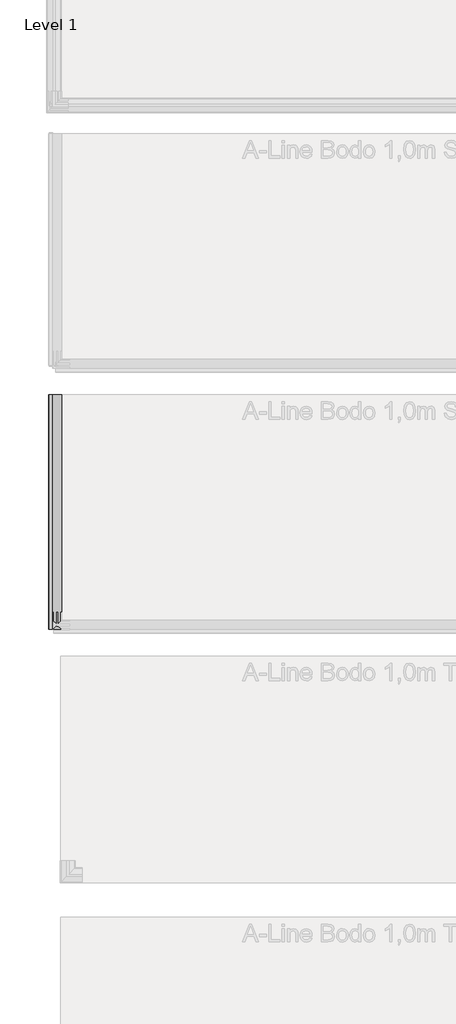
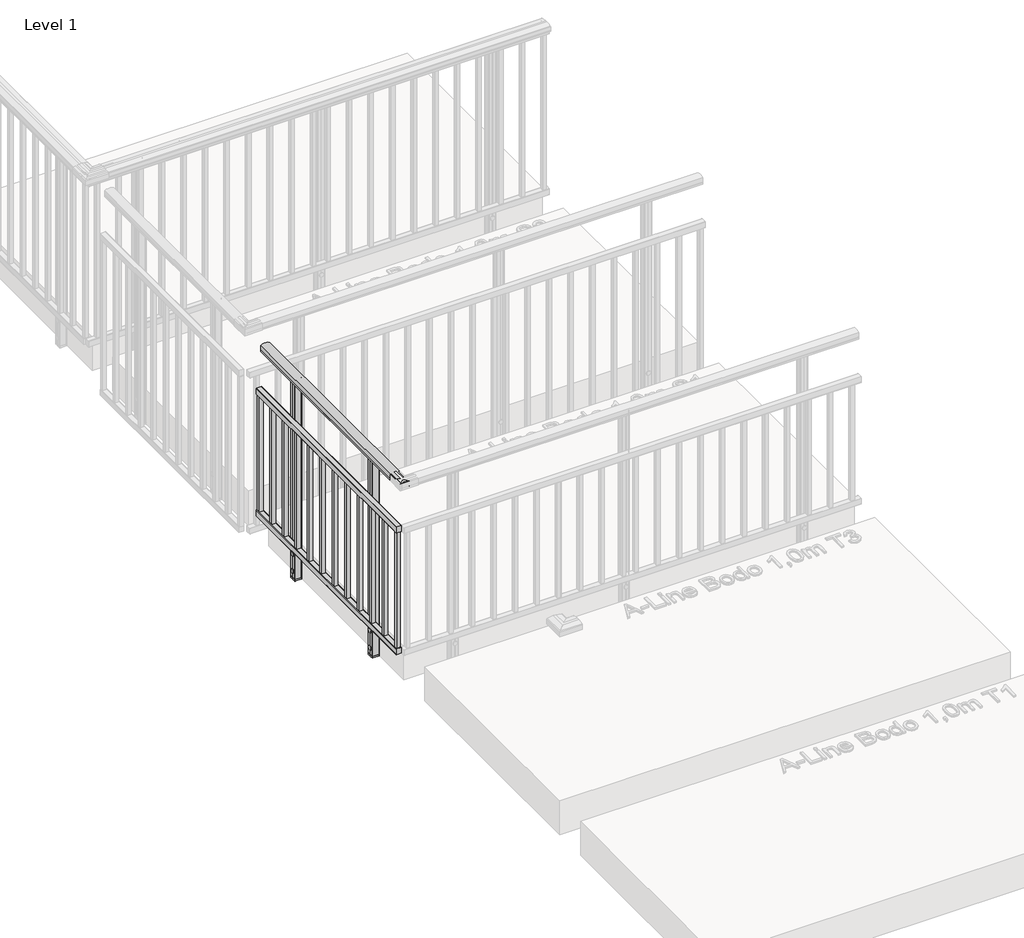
# One storey, part 3 of 66: 1 railing.
"""IFC4 building model written with IfcOpenShell, lengths in millimetres."""

from ifc_helpers import new_model, si_unit, point, frame, frame_2d, origin, place, context, project, spatial, polyline, circle_curve, trimmed, segment, composite_curve, outline, extrude, element, save

model = new_model("IFC4")

# Units and contexts
model_context = context("Model", 3, world=origin())
ifc_project = project(units=[si_unit("LENGTHUNIT", "METRE", prefix="MILLI")], contexts=[model_context])

# Site, building, storey
site = spatial("IfcSite", under=ifc_project)
building = spatial("IfcBuilding", under=site)
storey = spatial("IfcBuildingStorey", under=building, Name="Level 1", Elevation=0.0)

# Railing
placement = place(None, origin())
element("IfcRailing", 1, ObjectType="A-Line Bodo 1,0m S1", at=placement, inside=storey, context=model_context, shape_type="SweptSolid", body=[
    extrude(outline(composite_curve([segment(trimmed(circle_curve(frame_2d((942.6785502, 4483.339356)), 57.3235687), [point((994.1390059, 4508.5943162))], [point((994.1342258, 4458.074658))], False, "CARTESIAN"), True, "CONTINUOUS"), segment(polyline([(994.1342258, 4458.074658), (967.0235023, 4458.074658), (966.4415706, 4458.6565897), (965.8194895, 4458.0345086), (957.2498847, 4458.0345086), (957.2498847, 4459.8394615), (980.4998829, 4459.8394615), (980.4998829, 4506.8345077), (957.2498847, 4506.8345077), (957.2498847, 4508.5943162), (965.9694895, 4508.5943162), (966.5842725, 4507.9795332), (967.1990555, 4508.5943162), (994.1390059, 4508.5943162)]), True, "CONTINUOUS")], self_intersect=False)), frame((0.0, -17614.7113559, 0.0), z_axis=(0.0, 1.0, 0.0), x_axis=(0.0, 0.0, 1.0)), (0.0, 0.0, 1.0), 1345.0),
    extrude(outline(composite_curve([segment(polyline([(749.0, 4434.5047322), (716.8, 4434.5047322)]), True, "CONTINUOUS"), segment(trimmed(circle_curve(frame_2d((716.8, 4435.5047322)), 1.0), [point((716.8, 4434.5047322))], [point((715.8, 4435.5047322))], False, "CARTESIAN"), True, "CONTINUOUS"), segment(polyline([(715.8, 4435.5047322), (715.8, 4462.6047322)]), True, "CONTINUOUS"), segment(trimmed(circle_curve(frame_2d((716.8, 4462.6047322)), 1.0), [point((715.8, 4462.6047322))], [point((716.8, 4463.6047322))], False, "CARTESIAN"), True, "CONTINUOUS"), segment(polyline([(716.8, 4463.6047322), (749.0, 4463.6047322)]), True, "CONTINUOUS"), segment(trimmed(circle_curve(frame_2d((749.0, 4462.6047322)), 1.0), [point((749.0, 4463.6047322))], [point((750.0, 4462.6047322))], False, "CARTESIAN"), True, "CONTINUOUS"), segment(polyline([(750.0, 4462.6047322), (750.0, 4435.5047322)]), True, "CONTINUOUS"), segment(trimmed(circle_curve(frame_2d((749.0, 4435.5047322)), 1.0), [point((750.0, 4435.5047322))], [point((749.0, 4434.5047322))], False, "CARTESIAN"), True, "CONTINUOUS")], self_intersect=False)), frame((0.0, -17614.7113559, 0.0), z_axis=(0.0, 1.0, 0.0), x_axis=(0.0, 0.0, 1.0)), (0.0, 0.0, 1.0), 1345.0),
    extrude(outline(composite_curve([segment(trimmed(circle_curve(frame_2d((33.2, 4435.5047322)), 1.0), [point((34.2, 4435.5047322))], [point((33.2, 4434.5047322))], False, "CARTESIAN"), True, "CONTINUOUS"), segment(polyline([(33.2, 4434.5047322), (1.0, 4434.5047322)]), True, "CONTINUOUS"), segment(trimmed(circle_curve(frame_2d((1.0, 4435.5047322)), 1.0), [point((1.0, 4434.5047322))], [point((0.0, 4435.5047322))], False, "CARTESIAN"), True, "CONTINUOUS"), segment(polyline([(0.0, 4435.5047322), (0.0, 4462.6047322)]), True, "CONTINUOUS"), segment(trimmed(circle_curve(frame_2d((1.0, 4462.6047322)), 1.0), [point((0.0, 4462.6047322))], [point((1.0, 4463.6047322))], False, "CARTESIAN"), True, "CONTINUOUS"), segment(polyline([(1.0, 4463.6047322), (33.2, 4463.6047322)]), True, "CONTINUOUS"), segment(trimmed(circle_curve(frame_2d((33.2, 4462.6047322)), 1.0), [point((33.2, 4463.6047322))], [point((34.2, 4462.6047322))], False, "CARTESIAN"), True, "CONTINUOUS"), segment(polyline([(34.2, 4462.6047322), (34.2, 4435.5047322)]), True, "CONTINUOUS")], self_intersect=False)), frame((0.0, -17614.7113559, 0.0), z_axis=(0.0, 1.0, 0.0), x_axis=(0.0, 0.0, 1.0)), (0.0, 0.0, 1.0), 1345.0),
    extrude(outline(polyline([(4439.0547322, -17592.2113559), (4459.0547322, -17592.2113559), (4459.0547322, -17612.2113559), (4439.0547322, -17612.2113559), (4439.0547322, -17592.2113559)]), holes=[polyline([(4441.0547322, -17594.2113559), (4441.0547322, -17610.2113559), (4457.0547322, -17610.2113559), (4457.0547322, -17594.2113559), (4441.0547322, -17594.2113559)])]), frame((0.0, 0.0, 34.0), z_axis=(0.0, 0.0, 1.0), x_axis=(1.0, 0.0, 0.0)), (0.0, 0.0, 1.0), 682.0),
    extrude(outline(polyline([(4439.0547322, -17472.2113559), (4459.0547322, -17472.2113559), (4459.0547322, -17492.2113559), (4439.0547322, -17492.2113559), (4439.0547322, -17472.2113559)]), holes=[polyline([(4441.0547322, -17474.2113559), (4441.0547322, -17490.2113559), (4457.0547322, -17490.2113559), (4457.0547322, -17474.2113559), (4441.0547322, -17474.2113559)])]), frame((0.0, 0.0, 34.0), z_axis=(0.0, 0.0, 1.0), x_axis=(1.0, 0.0, 0.0)), (0.0, 0.0, 1.0), 682.0),
    extrude(outline(polyline([(4439.0547322, -17352.2113559), (4459.0547322, -17352.2113559), (4459.0547322, -17372.2113559), (4439.0547322, -17372.2113559), (4439.0547322, -17352.2113559)]), holes=[polyline([(4441.0547322, -17354.2113559), (4441.0547322, -17370.2113559), (4457.0547322, -17370.2113559), (4457.0547322, -17354.2113559), (4441.0547322, -17354.2113559)])]), frame((0.0, 0.0, 34.0), z_axis=(0.0, 0.0, 1.0), x_axis=(1.0, 0.0, 0.0)), (0.0, 0.0, 1.0), 682.0),
    extrude(outline(polyline([(4439.0547322, -17232.2113559), (4459.0547322, -17232.2113559), (4459.0547322, -17252.2113559), (4439.0547322, -17252.2113559), (4439.0547322, -17232.2113559)]), holes=[polyline([(4441.0547322, -17234.2113559), (4441.0547322, -17250.2113559), (4457.0547322, -17250.2113559), (4457.0547322, -17234.2113559), (4441.0547322, -17234.2113559)])]), frame((0.0, 0.0, 34.0), z_axis=(0.0, 0.0, 1.0), x_axis=(1.0, 0.0, 0.0)), (0.0, 0.0, 1.0), 682.0),
    extrude(outline(polyline([(4439.0547322, -17112.2113559), (4459.0547322, -17112.2113559), (4459.0547322, -17132.2113559), (4439.0547322, -17132.2113559), (4439.0547322, -17112.2113559)]), holes=[polyline([(4441.0547322, -17114.2113559), (4441.0547322, -17130.2113559), (4457.0547322, -17130.2113559), (4457.0547322, -17114.2113559), (4441.0547322, -17114.2113559)])]), frame((0.0, 0.0, 34.0), z_axis=(0.0, 0.0, 1.0), x_axis=(1.0, 0.0, 0.0)), (0.0, 0.0, 1.0), 682.0),
    extrude(outline(polyline([(4439.0547322, -16992.2113559), (4459.0547322, -16992.2113559), (4459.0547322, -17012.2113559), (4439.0547322, -17012.2113559), (4439.0547322, -16992.2113559)]), holes=[polyline([(4441.0547322, -16994.2113559), (4441.0547322, -17010.2113559), (4457.0547322, -17010.2113559), (4457.0547322, -16994.2113559), (4441.0547322, -16994.2113559)])]), frame((0.0, 0.0, 34.0), z_axis=(0.0, 0.0, 1.0), x_axis=(1.0, 0.0, 0.0)), (0.0, 0.0, 1.0), 682.0),
    extrude(outline(polyline([(4439.0547322, -16872.2113559), (4459.0547322, -16872.2113559), (4459.0547322, -16892.2113559), (4439.0547322, -16892.2113559), (4439.0547322, -16872.2113559)]), holes=[polyline([(4441.0547322, -16874.2113559), (4441.0547322, -16890.2113559), (4457.0547322, -16890.2113559), (4457.0547322, -16874.2113559), (4441.0547322, -16874.2113559)])]), frame((0.0, 0.0, 34.0), z_axis=(0.0, 0.0, 1.0), x_axis=(1.0, 0.0, 0.0)), (0.0, 0.0, 1.0), 682.0),
    extrude(outline(polyline([(4439.0547322, -16752.2113559), (4459.0547322, -16752.2113559), (4459.0547322, -16772.2113559), (4439.0547322, -16772.2113559), (4439.0547322, -16752.2113559)]), holes=[polyline([(4441.0547322, -16754.2113559), (4441.0547322, -16770.2113559), (4457.0547322, -16770.2113559), (4457.0547322, -16754.2113559), (4441.0547322, -16754.2113559)])]), frame((0.0, 0.0, 34.0), z_axis=(0.0, 0.0, 1.0), x_axis=(1.0, 0.0, 0.0)), (0.0, 0.0, 1.0), 682.0),
    extrude(outline(polyline([(4439.0547322, -16632.2113559), (4459.0547322, -16632.2113559), (4459.0547322, -16652.2113559), (4439.0547322, -16652.2113559), (4439.0547322, -16632.2113559)]), holes=[polyline([(4441.0547322, -16634.2113559), (4441.0547322, -16650.2113559), (4457.0547322, -16650.2113559), (4457.0547322, -16634.2113559), (4441.0547322, -16634.2113559)])]), frame((0.0, 0.0, 34.0), z_axis=(0.0, 0.0, 1.0), x_axis=(1.0, 0.0, 0.0)), (0.0, 0.0, 1.0), 682.0),
    extrude(outline(polyline([(4439.0547322, -16512.2113559), (4459.0547322, -16512.2113559), (4459.0547322, -16532.2113559), (4439.0547322, -16532.2113559), (4439.0547322, -16512.2113559)]), holes=[polyline([(4441.0547322, -16514.2113559), (4441.0547322, -16530.2113559), (4457.0547322, -16530.2113559), (4457.0547322, -16514.2113559), (4441.0547322, -16514.2113559)])]), frame((0.0, 0.0, 34.0), z_axis=(0.0, 0.0, 1.0), x_axis=(1.0, 0.0, 0.0)), (0.0, 0.0, 1.0), 682.0),
    extrude(outline(polyline([(4439.0547322, -16392.2113559), (4459.0547322, -16392.2113559), (4459.0547322, -16412.2113559), (4439.0547322, -16412.2113559), (4439.0547322, -16392.2113559)]), holes=[polyline([(4441.0547322, -16394.2113559), (4441.0547322, -16410.2113559), (4457.0547322, -16410.2113559), (4457.0547322, -16394.2113559), (4441.0547322, -16394.2113559)])]), frame((0.0, 0.0, 34.0), z_axis=(0.0, 0.0, 1.0), x_axis=(1.0, 0.0, 0.0)), (0.0, 0.0, 1.0), 682.0),
    extrude(outline(polyline([(4439.0547322, -16272.2113559), (4459.0547322, -16272.2113559), (4459.0547322, -16292.2113559), (4439.0547322, -16292.2113559), (4439.0547322, -16272.2113559)]), holes=[polyline([(4441.0547322, -16274.2113559), (4441.0547322, -16290.2113559), (4457.0547322, -16290.2113559), (4457.0547322, -16274.2113559), (4441.0547322, -16274.2113559)])]), frame((0.0, 0.0, 34.0), z_axis=(0.0, 0.0, 1.0), x_axis=(1.0, 0.0, 0.0)), (0.0, 0.0, 1.0), 682.0),
    extrude(outline(composite_curve([segment(polyline([(4504.0547322, -17315.5141429), (4504.0547322, -17332.5374429)]), True, "CONTINUOUS"), segment(trimmed(circle_curve(frame_2d((4501.8808192, -17332.5374429)), 2.173913), [point((4504.0547322, -17332.5374429))], [point((4501.8808192, -17334.7113559))], False, "CARTESIAN"), True, "CONTINUOUS"), segment(polyline([(4501.8808192, -17334.7113559), (4466.2286453, -17334.7113559)]), True, "CONTINUOUS"), segment(trimmed(circle_curve(frame_2d((4466.2286453, -17332.5374429)), 2.173913), [point((4466.2286453, -17334.7113559))], [point((4464.0547322, -17332.5374429))], False, "CARTESIAN"), True, "CONTINUOUS"), segment(polyline([(4464.0547322, -17332.5374429), (4464.0896821, -17315.479193), (4464.8575193, -17314.7113559), (4464.0896821, -17313.9435188), (4464.0547322, -17296.885269)]), True, "CONTINUOUS"), segment(trimmed(circle_curve(frame_2d((4466.2286453, -17296.885269)), 2.173913), [point((4464.0547322, -17296.885269))], [point((4466.2286453, -17294.7113559))], False, "CARTESIAN"), True, "CONTINUOUS"), segment(polyline([(4466.2286453, -17294.7113559), (4501.8808192, -17294.7113559)]), True, "CONTINUOUS"), segment(trimmed(circle_curve(frame_2d((4501.8808192, -17296.885269)), 2.173913), [point((4501.8808192, -17294.7113559))], [point((4504.0547322, -17296.8852689))], False, "CARTESIAN"), True, "CONTINUOUS"), segment(polyline([(4504.0547322, -17296.8852689), (4504.0197823, -17313.9435188), (4503.2519452, -17314.7113559), (4504.0547322, -17315.5141429)]), True, "CONTINUOUS")], self_intersect=False)), frame((0.0, 0.0, -200.0), z_axis=(0.0, 0.0, 1.0), x_axis=(1.0, 0.0, 0.0)), (0.0, 0.0, 1.0), 10.0),
    extrude(outline(composite_curve([segment(trimmed(circle_curve(frame_2d((4501.8808192, -17296.885269)), 2.173913), [point((4501.8808192, -17294.7113559))], [point((4504.0547322, -17296.885269))], False, "CARTESIAN"), True, "CONTINUOUS"), segment(polyline([(4504.0547322, -17296.885269), (4504.0197823, -17313.9435188), (4503.6517779, -17314.8417907), (4504.0547322, -17315.6096278), (4504.0547322, -17332.5374429)]), True, "CONTINUOUS"), segment(trimmed(circle_curve(frame_2d((4501.8808192, -17332.5374429)), 2.173913), [point((4504.0547322, -17332.5374429))], [point((4501.8808192, -17334.7113559))], False, "CARTESIAN"), True, "CONTINUOUS"), segment(polyline([(4501.8808192, -17334.7113559), (4466.2286453, -17334.7113559)]), True, "CONTINUOUS"), segment(trimmed(circle_curve(frame_2d((4466.2286453, -17332.5374429)), 2.173913), [point((4466.2286453, -17334.7113559))], [point((4464.0547322, -17332.5374429))], False, "CARTESIAN"), True, "CONTINUOUS"), segment(polyline([(4464.0547322, -17332.5374429), (4464.0896821, -17315.479193), (4464.8575193, -17314.7113559), (4464.0896821, -17313.9435188), (4464.0547322, -17296.885269)]), True, "CONTINUOUS"), segment(trimmed(circle_curve(frame_2d((4466.2286453, -17296.885269)), 2.173913), [point((4464.0547322, -17296.885269))], [point((4466.2286453, -17294.7113559))], False, "CARTESIAN"), True, "CONTINUOUS"), segment(polyline([(4466.2286453, -17294.7113559), (4501.8808192, -17294.7113559)]), True, "CONTINUOUS")], self_intersect=False), holes=[composite_curve([segment(polyline([(4499.7069062, -17298.1896168), (4468.4025583, -17298.1896168)]), True, "CONTINUOUS"), segment(trimmed(circle_curve(frame_2d((4468.4025583, -17299.059182)), 0.8695652), [point((4468.4025583, -17298.1896168))], [point((4467.5329931, -17299.059182))], True, "CARTESIAN"), True, "CONTINUOUS"), segment(polyline([(4467.5329931, -17299.059182), (4467.5329931, -17330.3635298)]), True, "CONTINUOUS"), segment(trimmed(circle_curve(frame_2d((4468.4025583, -17330.3635298)), 0.8695652), [point((4467.5329931, -17330.3635298))], [point((4468.4025583, -17331.233095))], True, "CARTESIAN"), True, "CONTINUOUS"), segment(polyline([(4468.4025583, -17331.233095), (4499.7069062, -17331.233095)]), True, "CONTINUOUS"), segment(trimmed(circle_curve(frame_2d((4499.7069062, -17330.3635298)), 0.8695652), [point((4499.7069062, -17331.233095))], [point((4500.5764714, -17330.3635298))], True, "CARTESIAN"), True, "CONTINUOUS"), segment(polyline([(4500.5764714, -17330.3635298), (4500.5764714, -17299.059182)]), True, "CONTINUOUS"), segment(trimmed(circle_curve(frame_2d((4499.7069062, -17299.059182)), 0.8695652), [point((4500.5764714, -17299.059182))], [point((4499.7069062, -17298.1896168))], True, "CARTESIAN"), True, "CONTINUOUS")], self_intersect=False)]), frame((0.0, 0.0, -190.0), z_axis=(0.0, 0.0, 1.0), x_axis=(1.0, 0.0, 0.0)), (0.0, 0.0, 1.0), 1171.0),
    extrude(outline(composite_curve([segment(trimmed(circle_curve(frame_2d((0.0, 12.0000001)), 12.0), [point((0.0, 24.0))], [point((0.0, 0.0))], False, "CARTESIAN"), True, "CONTINUOUS"), segment(trimmed(circle_curve(frame_2d((0.0, 12.0000001)), 12.0), [point((0.0, 0.0))], [point((0.0, 24.0))], False, "CARTESIAN"), True, "CONTINUOUS")], self_intersect=False)), frame((4464.0666505, -17302.7023183, -151.0), z_axis=(-0.9999999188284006, 0.000402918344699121, 0.0), x_axis=(0.0, 0.0, -1.0)), (0.0, 0.0, 1.0), 3.0757477),
    extrude(outline(composite_curve([segment(trimmed(circle_curve(frame_2d((0.0, 12.0000001)), 12.0), [point((0.0, 24.0))], [point((0.0, 0.0))], False, "CARTESIAN"), True, "CONTINUOUS"), segment(trimmed(circle_curve(frame_2d((0.0, 12.0000001)), 12.0), [point((0.0, 0.0))], [point((0.0, 24.0))], False, "CARTESIAN"), True, "CONTINUOUS")], self_intersect=False)), frame((4464.0666505, -17302.7023183, -50.0), z_axis=(-0.9999999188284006, 0.000402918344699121, 0.0), x_axis=(0.0, 0.0, -1.0)), (0.0, 0.0, 1.0), 3.0757477),
    extrude(outline(composite_curve([segment(polyline([(4504.0547322, -16570.5141429), (4504.0547322, -16587.5374429)]), True, "CONTINUOUS"), segment(trimmed(circle_curve(frame_2d((4501.8808192, -16587.5374429)), 2.173913), [point((4504.0547322, -16587.5374429))], [point((4501.8808192, -16589.7113559))], False, "CARTESIAN"), True, "CONTINUOUS"), segment(polyline([(4501.8808192, -16589.7113559), (4466.2286453, -16589.7113559)]), True, "CONTINUOUS"), segment(trimmed(circle_curve(frame_2d((4466.2286453, -16587.5374429)), 2.173913), [point((4466.2286453, -16589.7113559))], [point((4464.0547322, -16587.5374429))], False, "CARTESIAN"), True, "CONTINUOUS"), segment(polyline([(4464.0547322, -16587.5374429), (4464.0896821, -16570.479193), (4464.8575193, -16569.7113559), (4464.0896821, -16568.9435188), (4464.0547322, -16551.885269)]), True, "CONTINUOUS"), segment(trimmed(circle_curve(frame_2d((4466.2286453, -16551.885269)), 2.173913), [point((4464.0547322, -16551.885269))], [point((4466.2286453, -16549.7113559))], False, "CARTESIAN"), True, "CONTINUOUS"), segment(polyline([(4466.2286453, -16549.7113559), (4501.8808192, -16549.7113559)]), True, "CONTINUOUS"), segment(trimmed(circle_curve(frame_2d((4501.8808192, -16551.885269)), 2.173913), [point((4501.8808192, -16549.7113559))], [point((4504.0547322, -16551.8852689))], False, "CARTESIAN"), True, "CONTINUOUS"), segment(polyline([(4504.0547322, -16551.8852689), (4504.0197823, -16568.9435188), (4503.2519452, -16569.7113559), (4504.0547322, -16570.5141429)]), True, "CONTINUOUS")], self_intersect=False)), frame((0.0, 0.0, -200.0), z_axis=(0.0, 0.0, 1.0), x_axis=(1.0, 0.0, 0.0)), (0.0, 0.0, 1.0), 10.0),
    extrude(outline(composite_curve([segment(trimmed(circle_curve(frame_2d((4501.8808192, -16551.885269)), 2.173913), [point((4501.8808192, -16549.7113559))], [point((4504.0547322, -16551.885269))], False, "CARTESIAN"), True, "CONTINUOUS"), segment(polyline([(4504.0547322, -16551.885269), (4504.0197823, -16568.9435188), (4503.6517779, -16569.8417907), (4504.0547322, -16570.6096278), (4504.0547322, -16587.5374429)]), True, "CONTINUOUS"), segment(trimmed(circle_curve(frame_2d((4501.8808192, -16587.5374429)), 2.173913), [point((4504.0547322, -16587.5374429))], [point((4501.8808192, -16589.7113559))], False, "CARTESIAN"), True, "CONTINUOUS"), segment(polyline([(4501.8808192, -16589.7113559), (4466.2286453, -16589.7113559)]), True, "CONTINUOUS"), segment(trimmed(circle_curve(frame_2d((4466.2286453, -16587.5374429)), 2.173913), [point((4466.2286453, -16589.7113559))], [point((4464.0547322, -16587.5374429))], False, "CARTESIAN"), True, "CONTINUOUS"), segment(polyline([(4464.0547322, -16587.5374429), (4464.0896821, -16570.479193), (4464.8575193, -16569.7113559), (4464.0896821, -16568.9435188), (4464.0547322, -16551.885269)]), True, "CONTINUOUS"), segment(trimmed(circle_curve(frame_2d((4466.2286453, -16551.885269)), 2.173913), [point((4464.0547322, -16551.885269))], [point((4466.2286453, -16549.7113559))], False, "CARTESIAN"), True, "CONTINUOUS"), segment(polyline([(4466.2286453, -16549.7113559), (4501.8808192, -16549.7113559)]), True, "CONTINUOUS")], self_intersect=False), holes=[composite_curve([segment(polyline([(4499.7069062, -16553.1896168), (4468.4025583, -16553.1896168)]), True, "CONTINUOUS"), segment(trimmed(circle_curve(frame_2d((4468.4025583, -16554.059182)), 0.8695652), [point((4468.4025583, -16553.1896168))], [point((4467.5329931, -16554.059182))], True, "CARTESIAN"), True, "CONTINUOUS"), segment(polyline([(4467.5329931, -16554.059182), (4467.5329931, -16585.3635298)]), True, "CONTINUOUS"), segment(trimmed(circle_curve(frame_2d((4468.4025583, -16585.3635298)), 0.8695652), [point((4467.5329931, -16585.3635298))], [point((4468.4025583, -16586.233095))], True, "CARTESIAN"), True, "CONTINUOUS"), segment(polyline([(4468.4025583, -16586.233095), (4499.7069062, -16586.233095)]), True, "CONTINUOUS"), segment(trimmed(circle_curve(frame_2d((4499.7069062, -16585.3635298)), 0.8695652), [point((4499.7069062, -16586.233095))], [point((4500.5764714, -16585.3635298))], True, "CARTESIAN"), True, "CONTINUOUS"), segment(polyline([(4500.5764714, -16585.3635298), (4500.5764714, -16554.059182)]), True, "CONTINUOUS"), segment(trimmed(circle_curve(frame_2d((4499.7069062, -16554.059182)), 0.8695652), [point((4500.5764714, -16554.059182))], [point((4499.7069062, -16553.1896168))], True, "CARTESIAN"), True, "CONTINUOUS")], self_intersect=False)]), frame((0.0, 0.0, -190.0), z_axis=(0.0, 0.0, 1.0), x_axis=(1.0, 0.0, 0.0)), (0.0, 0.0, 1.0), 1171.0),
    extrude(outline(composite_curve([segment(trimmed(circle_curve(frame_2d((0.0, 12.0000001)), 12.0), [point((0.0, 24.0))], [point((0.0, 0.0))], False, "CARTESIAN"), True, "CONTINUOUS"), segment(trimmed(circle_curve(frame_2d((0.0, 12.0000001)), 12.0), [point((0.0, 0.0))], [point((0.0, 24.0))], False, "CARTESIAN"), True, "CONTINUOUS")], self_intersect=False)), frame((4464.0666505, -16557.7023183, -151.0), z_axis=(-0.9999999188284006, 0.000402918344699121, 0.0), x_axis=(0.0, 0.0, -1.0)), (0.0, 0.0, 1.0), 3.0757477),
    extrude(outline(composite_curve([segment(trimmed(circle_curve(frame_2d((0.0, 12.0000001)), 12.0), [point((0.0, 24.0))], [point((0.0, 0.0))], False, "CARTESIAN"), True, "CONTINUOUS"), segment(trimmed(circle_curve(frame_2d((0.0, 12.0000001)), 12.0), [point((0.0, 0.0))], [point((0.0, 24.0))], False, "CARTESIAN"), True, "CONTINUOUS")], self_intersect=False)), frame((4464.0666505, -16557.7023183, -50.0), z_axis=(-0.9999999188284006, 0.000402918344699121, 0.0), x_axis=(0.0, 0.0, -1.0)), (0.0, 0.0, 1.0), 3.0757477),
])

save(model, "model.ifc")
